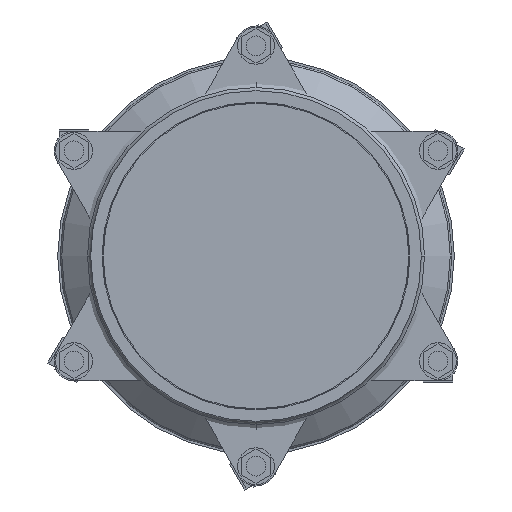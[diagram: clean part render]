
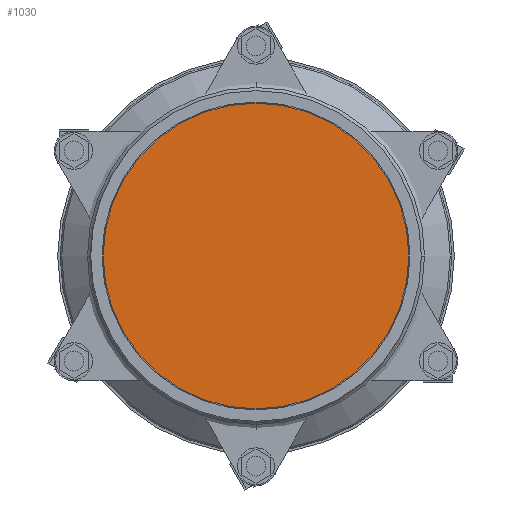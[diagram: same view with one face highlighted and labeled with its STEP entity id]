
A CAD part, left-side view. The second image highlights one B-rep face of the part: STEP entity #1030.
In plain terms, the highlighted planar face has unit normal (-1, 0, 0).
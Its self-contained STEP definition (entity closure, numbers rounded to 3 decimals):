
#1030=ADVANCED_FACE('',(#2188),#2189,.T.);
#2188=FACE_OUTER_BOUND('',#3756,.T.);
#2189=PLANE('',#3757);
#3756=EDGE_LOOP('',(#5758,#5759));
#3757=AXIS2_PLACEMENT_3D('',#5760,#5761,#5762);
#5758=ORIENTED_EDGE('',*,*,#9071,.T.);
#5759=ORIENTED_EDGE('',*,*,#8986,.T.);
#5760=CARTESIAN_POINT('',(-287.,-160.22,92.499));
#5761=DIRECTION('',(-1.0,0.0,0.));
#5762=DIRECTION('',(0.,0.0,1.0));
#8986=EDGE_CURVE('',#10794,#10791,#10795,.T.);
#9071=EDGE_CURVE('',#10791,#10794,#10920,.T.);
#10791=VERTEX_POINT('',#13185);
#10794=VERTEX_POINT('',#13189);
#10795=CIRCLE('',#13190,167.0);
#10920=CIRCLE('',#13368,167.0);
#13185=CARTESIAN_POINT('',(-287.,-160.22,-74.501));
#13189=CARTESIAN_POINT('',(-287.,-160.22,259.499));
#13190=AXIS2_PLACEMENT_3D('',#15471,#15472,#15473);
#13368=AXIS2_PLACEMENT_3D('',#15560,#15561,#15562);
#15471=CARTESIAN_POINT('',(-287.,-160.22,92.499));
#15472=DIRECTION('',(-1.0,0.0,0.));
#15473=DIRECTION('',(0.,0.0,-1.0));
#15560=CARTESIAN_POINT('',(-287.,-160.22,92.499));
#15561=DIRECTION('',(-1.0,0.0,0.));
#15562=DIRECTION('',(0.,0.0,-1.0));
